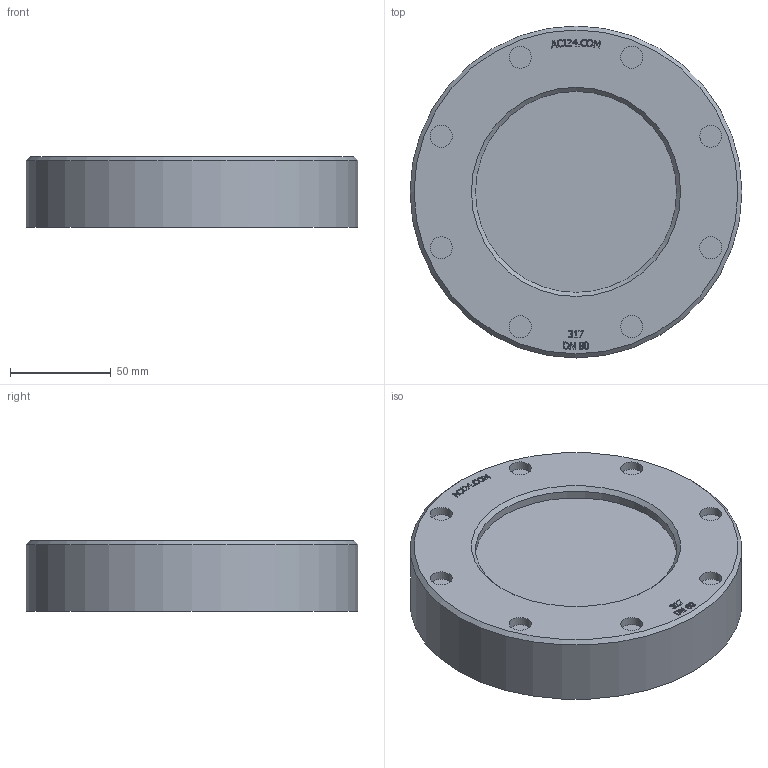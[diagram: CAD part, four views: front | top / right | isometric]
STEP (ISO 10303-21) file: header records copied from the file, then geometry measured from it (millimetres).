
FILE_DESCRIPTION(/* description */ (''),/* implementation_level */ '2;1');
FILE_NAME(/* name */ 'W:\Konstruktion_ACI\317\_STEP\ACI-317-80.stp',/* time_stamp */ '2022-03-02T17:55:43+01:00',/* author */ ('Travnicek'),/* organization */ (''),/* preprocessor_version */ 'ST-DEVELOPER v16.1',/* originating_system */ 'Autodesk Inventor 2016',/* authorisation */ '');
FILE_SCHEMA (('AUTOMOTIVE_DESIGN { 1 0 10303 214 3 1 1 }'));
Length unit declared in the file: centimetre
Products named in the file (1): ACI-317-80.stp
Bounding box: 165 x 165 x 35 mm (x, y, z)
Volume: 615126.9 mm3; surface area: 65485.3 mm2
Topology: 1 solids, 1 shells, 276 faces, 720 edges, 479 vertices
Faces by surface type: plane 146, bspline 116, cylinder 11, cone 3
Full cylindrical faces by diameter (mm): 11 x8, 100 x2, 165 x1
Entity records: 9243 total; most frequent: CARTESIAN_POINT 2970, ORIENTED_EDGE 1412, DIRECTION 821, EDGE_CURVE 706, VERTEX_POINT 479, LINE 449, VECTOR 449, EDGE_LOOP 323
